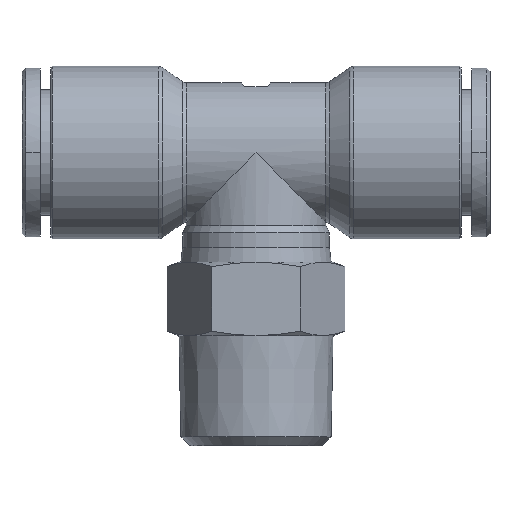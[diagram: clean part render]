
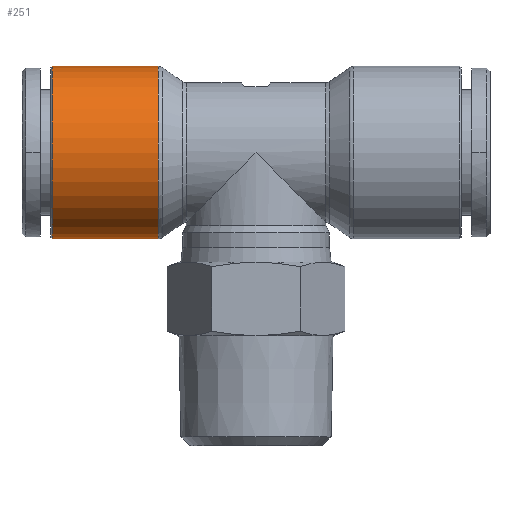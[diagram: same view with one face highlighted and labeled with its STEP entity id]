
A CAD part, front view. The second image highlights one B-rep face of the part: STEP entity #251.
In plain terms, the highlighted cylindrical face has radius 11.75 mm (diameter 23.5 mm), a partial arc.
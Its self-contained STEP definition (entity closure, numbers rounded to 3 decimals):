
#210=CARTESIAN_POINT('',(-19.5,0.,0.));
#211=DIRECTION('',(1.0,0.0,0.0));
#212=DIRECTION('',(0.0,0.0,1.0));
#213=AXIS2_PLACEMENT_3D('',#210,#211,#212);
#214=CYLINDRICAL_SURFACE('',#213,11.75);
#215=CARTESIAN_POINT('',(-27.8,0.,11.75));
#216=VERTEX_POINT('',#215);
#217=CARTESIAN_POINT('',(-13.316,0.,11.75));
#218=VERTEX_POINT('',#217);
#219=CARTESIAN_POINT('',(-27.8,0.,11.75));
#220=DIRECTION('',(1.0,0.0,0.0));
#221=VECTOR('',#220,14.484);
#222=LINE('',#219,#221);
#223=EDGE_CURVE('',#216,#218,#222,.T.);
#224=ORIENTED_EDGE('',*,*,#223,.F.);
#225=CARTESIAN_POINT('',(-27.8,0.,-11.75));
#226=VERTEX_POINT('',#225);
#227=CARTESIAN_POINT('',(-27.8,0.,0.));
#228=DIRECTION('',(-1.0,0.0,0.0));
#229=DIRECTION('',(0.0,0.0,1.0));
#230=AXIS2_PLACEMENT_3D('',#227,#228,#229);
#231=CIRCLE('',#230,11.75);
#232=EDGE_CURVE('',#226,#216,#231,.T.);
#233=ORIENTED_EDGE('',*,*,#232,.F.);
#234=CARTESIAN_POINT('',(-13.316,0.,-11.75));
#235=VERTEX_POINT('',#234);
#236=CARTESIAN_POINT('',(-13.316,0.,-11.75));
#237=DIRECTION('',(-1.0,0.0,0.0));
#238=VECTOR('',#237,14.484);
#239=LINE('',#236,#238);
#240=EDGE_CURVE('',#235,#226,#239,.T.);
#241=ORIENTED_EDGE('',*,*,#240,.F.);
#242=CARTESIAN_POINT('',(-13.316,0.,0.));
#243=DIRECTION('',(1.0,0.0,0.0));
#244=DIRECTION('',(0.0,0.0,-1.0));
#245=AXIS2_PLACEMENT_3D('',#242,#243,#244);
#246=CIRCLE('',#245,11.75);
#247=EDGE_CURVE('',#218,#235,#246,.T.);
#248=ORIENTED_EDGE('',*,*,#247,.F.);
#249=EDGE_LOOP('',(#224,#233,#241,#248));
#250=FACE_OUTER_BOUND('',#249,.T.);
#251=ADVANCED_FACE('',(#250),#214,.T.);
